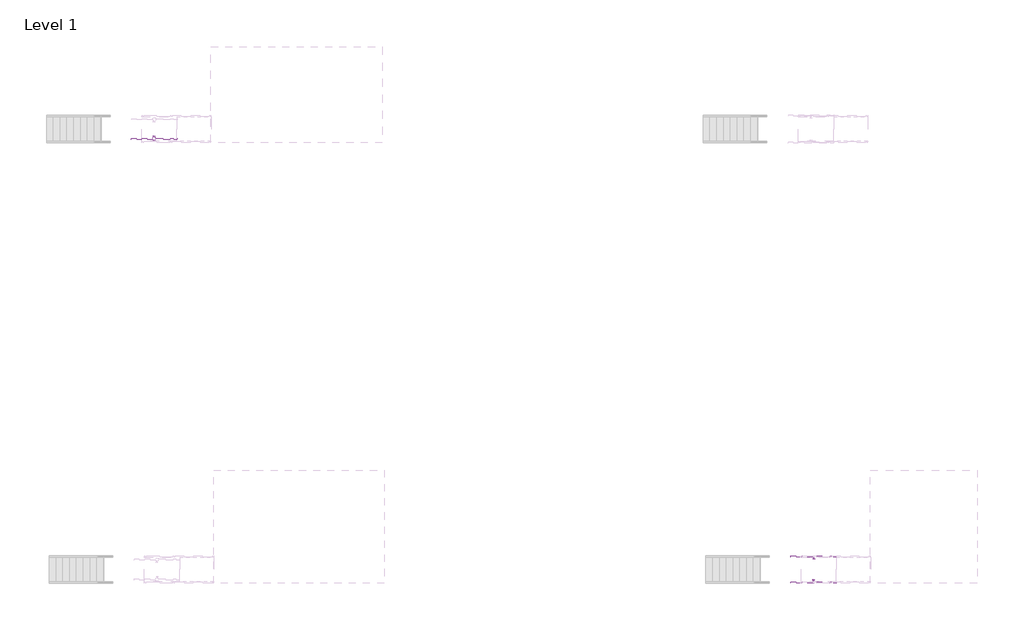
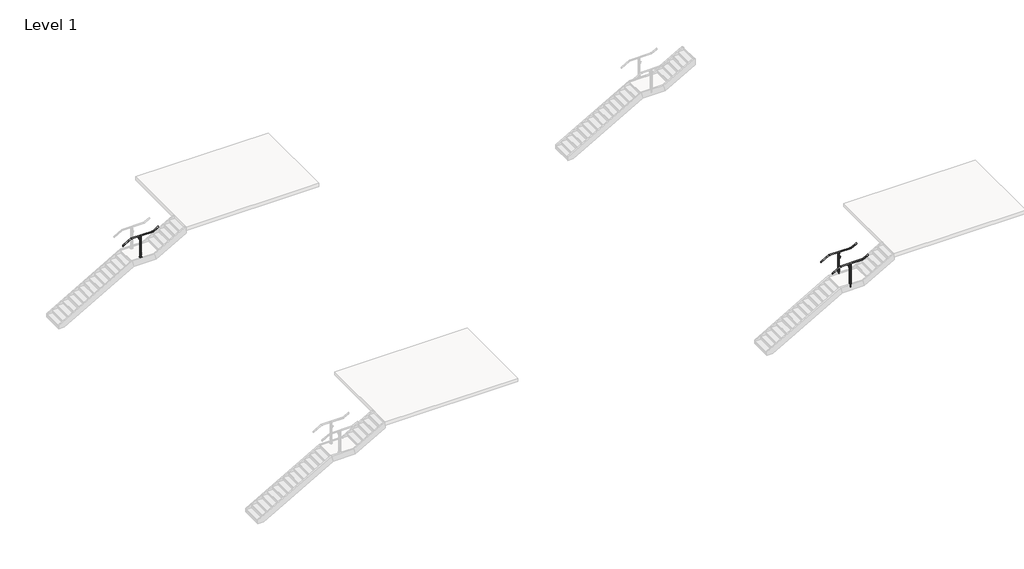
# One storey, part 30 of 36: 3 railings.
"""IFC4 building model written with IfcOpenShell, lengths in millimetres."""

from ifc_helpers import new_model, si_unit, point, frame, frame_2d, origin, place, context, project, spatial, polyline, circle_curve, ellipse_curve, trimmed, segment, composite_curve, outline, extrude, element, save
from ifc_brep_helpers import plane_surface, cylinder_surface, revolved_surface, advanced_brep

model = new_model("IFC4")

# Units and contexts
model_context = context("Model", 3, world=origin())
ifc_project = project(units=[si_unit("LENGTHUNIT", "METRE", prefix="MILLI")], contexts=[model_context])

# Site, building, storey
site = spatial("IfcSite", under=ifc_project)
building = spatial("IfcBuilding", under=site)
storey = spatial("IfcBuildingStorey", under=building, Name="Level 1", Elevation=0.0)

# Railings
placement = place(None, origin())
element("IfcRailing", 1, ObjectType="VIVA-BLADE-CableNet Infill-Panel-Core Mount-Stair-Landing", at=placement, inside=storey, context=model_context, shape_type="SolidModel", body=[
    advanced_brep(
    [(87371.2048368, 32377.4530185, 3047.7740933), (87371.2048368, 32428.2530185, 3047.7740933), (87758.9501735, 32377.4530185, 3269.3428571), (87758.9501735, 32428.2530185, 3269.3428571), (88825.7501735, 32377.4530185, 3269.3428571), (88825.7501735, 32428.2530185, 3269.3428571), (89076.1798368, 32377.4530185, 3412.4455219), (89076.1798368, 32428.2530185, 3412.4455219)],
    [
        (0, 1, ellipse_curve(frame((87371.2048368, 32402.8530185, 3047.7740933), z_axis=(-1.0, 0.0, 0.0), x_axis=(0.0, 0.0, -0.9999999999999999)), 29.2544781, 25.4)),
        (1, 0, ellipse_curve(frame((87371.2048368, 32402.8530185, 3047.7740933), z_axis=(-1.0, 0.0, 0.0), x_axis=(0.0, 0.0, -0.9999999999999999)), 29.2544781, 25.4)),
        (0, 2),
        (2, 3, ellipse_curve(frame((87758.9501735, 32402.8530185, 3269.3428571), z_axis=(-0.9664996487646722, 0.0, -0.2566679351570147), x_axis=(0.25666793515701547, 0.0, -0.9664996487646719)), 26.2804027, 25.4)),
        (3, 1),
        (3, 2, ellipse_curve(frame((87758.9501735, 32402.8530185, 3269.3428571), z_axis=(-0.9664996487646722, 0.0, -0.2566679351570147), x_axis=(0.25666793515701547, 0.0, -0.9664996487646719)), 26.2804027, 25.4)),
        (2, 4),
        (4, 5, ellipse_curve(frame((88825.7501735, 32402.8530185, 3269.3428571), z_axis=(-0.9664996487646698, 0.0, -0.2566679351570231), x_axis=(-0.2566679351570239, 0.0, 0.9664996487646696)), 26.2804027, 25.4)),
        (5, 3),
        (5, 4, ellipse_curve(frame((88825.7501735, 32402.8530185, 3269.3428571), z_axis=(-0.9664996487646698, 0.0, -0.2566679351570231), x_axis=(-0.2566679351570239, 0.0, 0.9664996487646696)), 26.2804027, 25.4)),
        (6, 7, ellipse_curve(frame((89076.1798368, 32402.8530185, 3412.4455219), z_axis=(1.0, 0.0, 0.0), x_axis=(0.0, 0.0, -1.0)), 29.2544781, 25.4)),
        (7, 6, ellipse_curve(frame((89076.1798368, 32402.8530185, 3412.4455219), z_axis=(1.0, 0.0, 0.0), x_axis=(0.0, 0.0, -1.0)), 29.2544781, 25.4)),
        (4, 6),
        (7, 5),
    ],
    [
        plane_surface(frame((87371.2048368, 32402.8530185, 3077.0285714), z_axis=(-1.0, 0.0, 0.0), x_axis=(0.0, 1.0, 0.0))),
        cylinder_surface(frame((87383.8067658, 32402.8530185, 3054.9751956), z_axis=(-0.868243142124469, 0.0, -0.49613893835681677), x_axis=(0.0, 1.0, 0.0)), 25.4),
        cylinder_surface(frame((87752.2048368, 32402.8530185, 3269.3428571), z_axis=(-1.0, 0.0, 0.0), x_axis=(0.0, 1.0, 0.0)), 25.4),
        plane_surface(frame((89076.1798368, 32402.8530185, 3441.7), z_axis=(1.0, 0.0, 0.0), x_axis=(0.0, 1.0, 0.0))),
        cylinder_surface(frame((88831.6067658, 32402.8530185, 3272.6894813), z_axis=(-0.8682431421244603, 0.0, -0.4961389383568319), x_axis=(0.0, 1.0, 0.0)), 25.4),
    ],
    [
        (0, [[1, 2]]),
        (1, [[-1, 3, 4, 5]]),
        (1, [[-2, -5, 6, -3]]),
        (2, [[-4, 7, 8, 9]]),
        (2, [[-6, -9, 10, -7]]),
        (3, [[11, 12]]),
        (4, [[-8, 13, -12, 14]]),
        (4, [[-10, -14, -11, -13]]),
    ],
),
    extrude(outline(composite_curve([segment(trimmed(circle_curve(frame_2d((0.0, 7.0)), 7.0), [point((0.0, 14.0))], [point((0.0, 0.0))], False, "CARTESIAN"), True, "CONTINUOUS"), segment(trimmed(circle_curve(frame_2d((0.0, 7.0)), 7.0), [point((0.0, 0.0))], [point((0.0, 14.0))], False, "CARTESIAN"), True, "CONTINUOUS")], self_intersect=False)), frame((88223.6080869, 32488.5366409, 3013.7229503), z_axis=(0.0012555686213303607, 0.0, 0.999999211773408), x_axis=(0.999999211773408, 0.0, -0.0012555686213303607)), (0.0, 0.0, 1.0), 75.97),
    extrude(outline(composite_curve([segment(trimmed(circle_curve(frame_2d((32496.784573, 3111.669086)), 19.05), [point((32483.2549847, 3098.2581672))], [point((32510.3141612, 3098.2581672))], True, "CARTESIAN"), True, "CONTINUOUS"), segment(polyline([(32510.3141612, 3098.2581672), (32511.3405508, 3097.2407802)]), True, "CONTINUOUS"), segment(trimmed(circle_curve(frame_2d((32510.284573, 3096.1754583)), 1.5), [point((32511.3405508, 3097.2407802))], [point((32511.2699744, 3095.0445366))], False, "CARTESIAN"), True, "CONTINUOUS"), segment(trimmed(circle_curve(frame_2d((32496.784573, 3111.669086)), 22.05), [point((32511.2699744, 3095.0445366))], [point((32482.2991715, 3095.0445366))], False, "CARTESIAN"), True, "CONTINUOUS"), segment(trimmed(circle_curve(frame_2d((32483.284573, 3096.1754583)), 1.5), [point((32482.2991715, 3095.0445366))], [point((32482.2285951, 3097.2407802))], False, "CARTESIAN"), True, "CONTINUOUS"), segment(polyline([(32482.2285951, 3097.2407802), (32483.2549847, 3098.2581672)]), True, "CONTINUOUS")], self_intersect=False)), frame((88187.2567022, 0.0, 0.0), z_axis=(1.0, 0.0, 0.0), x_axis=(0.0, 1.0, 0.0)), (0.0, 0.0, 1.0), 74.5229187),
    extrude(outline(composite_curve([segment(trimmed(circle_curve(frame_2d((3040.5995463, 88223.6679904)), 12.5), [point((3040.5995463, 88211.1679904))], [point((3040.5995463, 88236.1679904))], False, "CARTESIAN"), True, "CONTINUOUS"), segment(trimmed(circle_curve(frame_2d((3040.5995463, 88223.6679904)), 12.5), [point((3040.5995463, 88236.1679904))], [point((3040.5995463, 88211.1679904))], False, "CARTESIAN"), True, "CONTINUOUS")], self_intersect=False)), frame((0.0, 32428.2528152, 0.0), z_axis=(0.0, 1.0, 0.0), x_axis=(0.0, 0.0, 1.0)), (0.0, 0.0, 1.0), 82.061346),
    extrude(outline(polyline([(88250.7671725, 32434.6028152), (88250.7671725, 32428.2528152), (88196.6397725, 32428.2528152), (88196.6397725, 32434.6028152), (88250.7671725, 32434.6028152)])), frame((0.0, 0.0, 3013.6558249), z_axis=(0.0, 0.0, 1.0), x_axis=(1.0, 0.0, 0.0)), (0.0, 0.0, 1.0), 54.1734375),
    extrude(outline(composite_curve([segment(trimmed(circle_curve(frame_2d((88223.6803999, 32399.4170786)), 63.5), [point((88223.6803999, 32335.9170786))], [point((88223.6803999, 32462.9170786))], False, "CARTESIAN"), True, "CONTINUOUS"), segment(trimmed(circle_curve(frame_2d((88223.6803999, 32399.4170786)), 63.5), [point((88223.6803999, 32462.9170786))], [point((88223.6803999, 32335.9170786))], False, "CARTESIAN"), True, "CONTINUOUS")], self_intersect=False)), frame((0.0, 0.0, 2177.1428571), z_axis=(0.0, 0.0, 1.0), x_axis=(1.0, 0.0, 0.0)), (0.0, 0.0, 1.0), 9.525),
    advanced_brep(
    [(88268.9297368, 32415.6131421, 3247.3396226), (88268.9297368, 32390.7410776, 3247.1963856), (88268.9297368, 32387.9321473, 3242.3696317), (88268.9297368, 32419.4490396, 3242.9503901), (88178.4549368, 32415.6131421, 3247.3396226), (88178.4549368, 32419.4490396, 3242.9503901), (88178.4549368, 32387.8183539, 3242.4322535), (88178.4549368, 32390.6541055, 3247.2447018)],
    [
        (0, 1, circle_curve(frame((88268.9297368, 32403.0493392, 3269.4544469), z_axis=(-1.0, 0.0, 0.0), x_axis=(0.0, 1.0, 0.0)), 25.4345159)),
        (1, 2, circle_curve(frame((88268.9297368, 32389.4094524, 3244.742217), z_axis=(1.0, 0.0, 0.0), x_axis=(0.0, 1.0, 0.0)), 2.7949225)),
        (2, 3, circle_curve(frame((88268.9297368, 32403.1828023, 3270.2170736), z_axis=(1.0, 0.0, 0.0), x_axis=(0.0, 1.0, 0.0)), 31.75)),
        (3, 0, circle_curve(frame((88268.9297368, 32417.1606998, 3244.8213092), z_axis=(1.0, 0.0, 0.0), x_axis=(0.0, 1.0, 0.0)), 2.9558141)),
        (4, 5, circle_curve(frame((88178.4549368, 32417.1606998, 3244.8213092), z_axis=(-1.0, 0.0, 0.0), x_axis=(0.0, 1.0, 0.0)), 2.9558141)),
        (5, 6, circle_curve(frame((88178.4549368, 32403.1828023, 3270.2170736), z_axis=(-1.0, 0.0, 0.0), x_axis=(0.0, 1.0, 0.0)), 31.75)),
        (6, 7, circle_curve(frame((88178.4549368, 32389.4094524, 3244.742217), z_axis=(-1.0, 0.0, 0.0), x_axis=(0.0, 1.0, 0.0)), 2.7949225)),
        (7, 4, circle_curve(frame((88178.4549368, 32403.0493392, 3269.4544469), z_axis=(1.0, 0.0, 0.0), x_axis=(0.0, 1.0, 0.0)), 25.4345159)),
        (0, 4),
        (7, 1),
        (6, 2),
        (5, 3),
    ],
    [
        plane_surface(frame((88268.9297368, 32428.4838551, 3269.4544469), z_axis=(1.0, 0.0, 0.0), x_axis=(0.0, 0.0, -1.0))),
        plane_surface(frame((88178.4549368, 32428.4838551, 3269.4544469), z_axis=(-1.0, 0.0, 0.0), x_axis=(0.0, 0.0, 1.0))),
        revolved_surface(polyline([(88178.4549368, 32428.4838551, 3269.4544469), (88268.9297368, 32428.4838551, 3269.4544469)]), (88178.4549368, 32403.0493392, 3269.4544469), (-1.0, 0.0, 0.0)),
        cylinder_surface(frame((88178.4549368, 32389.4094524, 3244.742217), z_axis=(1.0, 0.0, 0.0), x_axis=(0.0, 1.0, 0.0)), 2.7949225),
        cylinder_surface(frame((88178.4549368, 32403.1828023, 3270.2170736), z_axis=(1.0, 0.0, 0.0), x_axis=(0.0, 1.0, 0.0)), 31.75),
        cylinder_surface(frame((88178.4549368, 32417.1606998, 3244.8213092), z_axis=(1.0, 0.0, 0.0), x_axis=(0.0, 1.0, 0.0)), 2.9558141),
    ],
    [
        (0, [[1, 2, 3, 4]]),
        (1, [[5, 6, 7, 8]]),
        (2, [[-1, 9, -8, 10]]),
        (3, [[-2, -10, -7, 11]]),
        (4, [[-3, -11, -6, 12]]),
        (5, [[-4, -12, -5, -9]]),
    ],
),
    advanced_brep(
    [(88236.3923368, 32405.3930185, 3229.6553571), (88210.9923368, 32405.3930185, 3229.6553571), (88196.6244219, 32405.3930185, 3244.023272), (88250.7602517, 32405.3930185, 3244.023272), (88236.3923368, 32400.3130185, 3229.6553571), (88250.7602517, 32400.3130185, 3244.023272), (88196.6244219, 32400.3130185, 3244.023272), (88210.9923368, 32400.3130185, 3229.6553571)],
    [
        (0, 1),
        (1, 2, circle_curve(frame((88196.6244219, 32405.3930185, 3229.6553571), z_axis=(0.0, -1.0, 0.0), x_axis=(-1.0, 0.0, 0.0)), 14.3679149)),
        (2, 3),
        (3, 0, circle_curve(frame((88250.7602517, 32405.3930185, 3229.6553571), z_axis=(0.0, -1.0, 0.0), x_axis=(-1.0, 0.0, 0.0)), 14.3679149)),
        (4, 5, circle_curve(frame((88250.7602517, 32400.3130185, 3229.6553571), z_axis=(0.0, 1.0, 0.0), x_axis=(-1.0, 0.0, 0.0)), 14.3679149)),
        (5, 6),
        (6, 7, circle_curve(frame((88196.6244219, 32400.3130185, 3229.6553571), z_axis=(0.0, 1.0, 0.0), x_axis=(-1.0, 0.0, 0.0)), 14.3679149)),
        (7, 4),
        (0, 4),
        (7, 1),
        (6, 2),
        (5, 3),
    ],
    [
        plane_surface(frame((88210.9923368, 32405.3930185, 3229.6553571), z_axis=(0.0, 1.0, 0.0), x_axis=(-1.0, 0.0, 0.0))),
        plane_surface(frame((88210.9923368, 32400.3130185, 3229.6553571), z_axis=(0.0, -1.0, 0.0), x_axis=(1.0, 0.0, 0.0))),
        plane_surface(frame((88236.3923368, 32405.3930185, 3229.6553571), z_axis=(0.0, 0.0, -1.0), x_axis=(0.0, -1.0, 0.0))),
        revolved_surface(polyline([(88182.256507, 32400.3130185, 3229.6553571), (88182.256507, 32405.3930185, 3229.6553571)]), (88196.6244219, 32400.3130185, 3229.6553571), (0.0, -1.0, 0.0)),
        plane_surface(frame((88196.6244219, 32405.3930185, 3244.023272), z_axis=(0.0, 0.0, 1.0), x_axis=(0.0, -1.0, 0.0))),
        revolved_surface(polyline([(88236.39233680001, 32400.3130185, 3229.6553571), (88236.39233680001, 32405.3930185, 3229.6553571)]), (88250.7602517, 32400.3130185, 3229.6553571), (0.0, -1.0, 0.0)),
    ],
    [
        (0, [[1, 2, 3, 4]]),
        (1, [[5, 6, 7, 8]]),
        (2, [[-1, 9, -8, 10]]),
        (3, [[-2, -10, -7, 11]]),
        (4, [[-3, -11, -6, 12]]),
        (5, [[-4, -12, -5, -9]]),
    ],
),
    extrude(outline(polyline([(88196.6175011, 32428.2528152), (88204.6423368, 32428.2528152), (88204.6423368, 32377.4504906), (88196.6175011, 32377.4504906), (88196.6175011, 32428.2528152)])), frame((0.0, 0.0, 2237.6440557), z_axis=(0.0, 0.0, 1.0), x_axis=(1.0, 0.0, 0.0)), (0.0, 0.0, 1.0), 974.5488015),
    extrude(outline(polyline([(88231.621338, 32428.2524163), (88231.621338, 32377.452424), (88215.6853476, 32377.452424), (88215.6853476, 32428.2524163), (88231.621338, 32428.2524163)])), frame((0.0, 0.0, 2075.5428571), z_axis=(0.0, 0.0, 1.0), x_axis=(1.0, 0.0, 0.0)), (0.0, 0.0, 1.0), 342.9),
    extrude(outline(composite_curve([segment(trimmed(circle_curve(frame_2d((32390.1505416, 3201.2845501)), 8.89), [point((32381.2605416, 3201.2845501))], [point((32399.0405416, 3201.2845501))], False, "CARTESIAN"), True, "CONTINUOUS"), segment(trimmed(circle_curve(frame_2d((32390.1505416, 3201.2845501)), 8.89), [point((32399.0405416, 3201.2845501))], [point((32381.2605416, 3201.2845501))], False, "CARTESIAN"), True, "CONTINUOUS")], self_intersect=False)), frame((88191.9423368, 0.0, 0.0), z_axis=(1.0, 0.0, 0.0), x_axis=(0.0, 1.0, 0.0)), (0.0, 0.0, 1.0), 63.4880631),
    extrude(outline(composite_curve([segment(trimmed(circle_curve(frame_2d((32415.5504395, 3201.2845501)), 8.89), [point((32406.6604395, 3201.2845501))], [point((32424.4404395, 3201.2845501))], False, "CARTESIAN"), True, "CONTINUOUS"), segment(trimmed(circle_curve(frame_2d((32415.5504395, 3201.2845501)), 8.89), [point((32424.4404395, 3201.2845501))], [point((32406.6604395, 3201.2845501))], False, "CARTESIAN"), True, "CONTINUOUS")], self_intersect=False)), frame((88191.9423368, 0.0, 0.0), z_axis=(1.0, 0.0, 0.0), x_axis=(0.0, 1.0, 0.0)), (0.0, 0.0, 1.0), 63.4880631),
    extrude(outline(polyline([(3189.9551571, 88204.6423368), (3189.9551571, 88242.7423368), (3223.3053571, 88242.7423368), (3229.6553571, 88236.3923368), (3229.6553571, 88210.9923368), (3223.3053571, 88204.6423368), (3189.9551571, 88204.6423368)])), frame((0.0, 32377.4504906, 0.0), z_axis=(0.0, 1.0, 0.0), x_axis=(0.0, 0.0, 1.0)), (0.0, 0.0, 1.0), 50.8025279),
    extrude(outline(composite_curve([segment(trimmed(circle_curve(frame_2d((32402.8532242, 2385.1476493)), 19.05), [point((32383.8032242, 2385.1476493))], [point((32421.9032242, 2385.1476493))], False, "CARTESIAN"), True, "CONTINUOUS"), segment(trimmed(circle_curve(frame_2d((32402.8532242, 2385.1476493)), 19.05), [point((32421.9032242, 2385.1476493))], [point((32383.8032242, 2385.1476493))], False, "CARTESIAN"), True, "CONTINUOUS")], self_intersect=False)), frame((88187.2433368, 0.0, 0.0), z_axis=(1.0, 0.0, 0.0), x_axis=(0.0, 1.0, 0.0)), (0.0, 0.0, 1.0), 72.8981531),
    extrude(outline(composite_curve([segment(trimmed(circle_curve(frame_2d((32402.8532242, 2296.2476493)), 19.05), [point((32383.8032242, 2296.2476493))], [point((32421.9032242, 2296.2476493))], False, "CARTESIAN"), True, "CONTINUOUS"), segment(trimmed(circle_curve(frame_2d((32402.8532242, 2296.2476493)), 19.05), [point((32421.9032242, 2296.2476493))], [point((32383.8032242, 2296.2476493))], False, "CARTESIAN"), True, "CONTINUOUS")], self_intersect=False)), frame((88187.2433368, 0.0, 0.0), z_axis=(1.0, 0.0, 0.0), x_axis=(0.0, 1.0, 0.0)), (0.0, 0.0, 1.0), 72.8981531),
    extrude(outline(polyline([(88242.7422988, 32428.2528152), (88250.7432988, 32428.2528152), (88250.7432988, 32377.4504906), (88242.7422988, 32377.4504906), (88242.7422988, 32428.2528152)])), frame((0.0, 0.0, 2237.6440557), z_axis=(0.0, 0.0, 1.0), x_axis=(1.0, 0.0, 0.0)), (0.0, 0.0, 1.0), 974.5488015),
])
element("IfcRailing", 2, ObjectType="VIVA-BLADE-Glass-Weld Mount-Stair-Landing", at=placement, inside=storey, context=model_context, shape_type="SolidModel", body=[
    advanced_brep(
    [(112025.2736551, 15795.2395941, 3047.7740933), (112025.2736551, 15846.0395941, 3047.7740933), (112413.0189918, 15795.2395941, 3269.3428571), (112413.0189918, 15846.0395941, 3269.3428571), (113479.8189918, 15795.2395941, 3269.3428571), (113479.8189918, 15846.0395941, 3269.3428571), (113730.2486551, 15795.2395941, 3412.4455219), (113730.2486551, 15846.0395941, 3412.4455219)],
    [
        (0, 1, ellipse_curve(frame((112025.2736551, 15820.6395941, 3047.7740933), z_axis=(-1.0, 0.0, 0.0), x_axis=(0.0, 0.0, -0.9999999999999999)), 29.2544781, 25.4)),
        (1, 0, ellipse_curve(frame((112025.2736551, 15820.6395941, 3047.7740933), z_axis=(-1.0, 0.0, 0.0), x_axis=(0.0, 0.0, -0.9999999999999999)), 29.2544781, 25.4)),
        (0, 2),
        (2, 3, ellipse_curve(frame((112413.0189918, 15820.6395941, 3269.3428571), z_axis=(-0.9664996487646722, 0.0, -0.2566679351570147), x_axis=(0.25666793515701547, 0.0, -0.9664996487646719)), 26.2804027, 25.4)),
        (3, 1),
        (3, 2, ellipse_curve(frame((112413.0189918, 15820.6395941, 3269.3428571), z_axis=(-0.9664996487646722, 0.0, -0.2566679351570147), x_axis=(0.25666793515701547, 0.0, -0.9664996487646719)), 26.2804027, 25.4)),
        (2, 4),
        (4, 5, ellipse_curve(frame((113479.8189918, 15820.6395941, 3269.3428571), z_axis=(-0.9664996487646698, 0.0, -0.2566679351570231), x_axis=(-0.2566679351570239, 0.0, 0.9664996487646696)), 26.2804027, 25.4)),
        (5, 3),
        (5, 4, ellipse_curve(frame((113479.8189918, 15820.6395941, 3269.3428571), z_axis=(-0.9664996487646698, 0.0, -0.2566679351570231), x_axis=(-0.2566679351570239, 0.0, 0.9664996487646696)), 26.2804027, 25.4)),
        (6, 7, ellipse_curve(frame((113730.2486551, 15820.6395941, 3412.4455219), z_axis=(1.0, 0.0, 0.0), x_axis=(0.0, 0.0, -1.0)), 29.2544781, 25.4)),
        (7, 6, ellipse_curve(frame((113730.2486551, 15820.6395941, 3412.4455219), z_axis=(1.0, 0.0, 0.0), x_axis=(0.0, 0.0, -1.0)), 29.2544781, 25.4)),
        (4, 6),
        (7, 5),
    ],
    [
        plane_surface(frame((112025.2736551, 15820.6395941, 3077.0285714), z_axis=(-1.0, 0.0, 0.0), x_axis=(0.0, 1.0, 0.0))),
        cylinder_surface(frame((112037.8755841, 15820.6395941, 3054.9751956), z_axis=(-0.868243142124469, 0.0, -0.49613893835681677), x_axis=(0.0, 1.0, 0.0)), 25.4),
        cylinder_surface(frame((112406.2736551, 15820.6395941, 3269.3428571), z_axis=(-1.0, 0.0, 0.0), x_axis=(0.0, 1.0, 0.0)), 25.4),
        plane_surface(frame((113730.2486551, 15820.6395941, 3441.7), z_axis=(1.0, 0.0, 0.0), x_axis=(0.0, 1.0, 0.0))),
        cylinder_surface(frame((113485.6755841, 15820.6395941, 3272.6894813), z_axis=(-0.8682431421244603, 0.0, -0.4961389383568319), x_axis=(0.0, 1.0, 0.0)), 25.4),
    ],
    [
        (0, [[1, 2]]),
        (1, [[-1, 3, 4, 5]]),
        (1, [[-2, -5, 6, -3]]),
        (2, [[-4, 7, 8, 9]]),
        (2, [[-6, -9, 10, -7]]),
        (3, [[11, 12]]),
        (4, [[-8, 13, -12, 14]]),
        (4, [[-10, -14, -11, -13]]),
    ],
),
    extrude(outline(composite_curve([segment(trimmed(circle_curve(frame_2d((0.0, 7.0)), 7.0), [point((0.0, 14.0))], [point((0.0, 0.0))], False, "CARTESIAN"), True, "CONTINUOUS"), segment(trimmed(circle_curve(frame_2d((0.0, 7.0)), 7.0), [point((0.0, 0.0))], [point((0.0, 14.0))], False, "CARTESIAN"), True, "CONTINUOUS")], self_intersect=False)), frame((112877.6769052, 15906.3232165, 3013.7229503), z_axis=(0.0012555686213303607, 0.0, 0.999999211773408), x_axis=(0.999999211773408, 0.0, -0.0012555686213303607)), (0.0, 0.0, 1.0), 75.97),
    extrude(outline(composite_curve([segment(trimmed(circle_curve(frame_2d((15914.5711486, 3111.669086)), 19.05), [point((15901.0415603, 3098.2581672))], [point((15928.1007368, 3098.2581672))], True, "CARTESIAN"), True, "CONTINUOUS"), segment(polyline([(15928.1007368, 3098.2581672), (15929.1271264, 3097.2407802)]), True, "CONTINUOUS"), segment(trimmed(circle_curve(frame_2d((15928.0711486, 3096.1754583)), 1.5), [point((15929.1271264, 3097.2407802))], [point((15929.05655, 3095.0445366))], False, "CARTESIAN"), True, "CONTINUOUS"), segment(trimmed(circle_curve(frame_2d((15914.5711486, 3111.669086)), 22.05), [point((15929.05655, 3095.0445366))], [point((15900.0857471, 3095.0445366))], False, "CARTESIAN"), True, "CONTINUOUS"), segment(trimmed(circle_curve(frame_2d((15901.0711486, 3096.1754583)), 1.5), [point((15900.0857471, 3095.0445366))], [point((15900.0151707, 3097.2407802))], False, "CARTESIAN"), True, "CONTINUOUS"), segment(polyline([(15900.0151707, 3097.2407802), (15901.0415603, 3098.2581672)]), True, "CONTINUOUS")], self_intersect=False)), frame((112841.3255204, 0.0, 0.0), z_axis=(1.0, 0.0, 0.0), x_axis=(0.0, 1.0, 0.0)), (0.0, 0.0, 1.0), 74.5229187),
    extrude(outline(composite_curve([segment(trimmed(circle_curve(frame_2d((3040.5995463, 112877.7368087)), 12.5), [point((3040.5995463, 112865.2368087))], [point((3040.5995463, 112890.2368087))], False, "CARTESIAN"), True, "CONTINUOUS"), segment(trimmed(circle_curve(frame_2d((3040.5995463, 112877.7368087)), 12.5), [point((3040.5995463, 112890.2368087))], [point((3040.5995463, 112865.2368087))], False, "CARTESIAN"), True, "CONTINUOUS")], self_intersect=False)), frame((0.0, 15846.0393908, 0.0), z_axis=(0.0, 1.0, 0.0), x_axis=(0.0, 0.0, 1.0)), (0.0, 0.0, 1.0), 82.061346),
    extrude(outline(polyline([(112904.8359907, 15852.3893908), (112904.8359907, 15846.0393908), (112850.7085907, 15846.0393908), (112850.7085907, 15852.3893908), (112904.8359907, 15852.3893908)])), frame((0.0, 0.0, 3013.6558249), z_axis=(0.0, 0.0, 1.0), x_axis=(1.0, 0.0, 0.0)), (0.0, 0.0, 1.0), 54.1734375),
    advanced_brep(
    [(112922.9985551, 15833.3997177, 3247.3396226), (112922.9985551, 15808.5276532, 3247.1963856), (112922.9985551, 15805.7187229, 3242.3696317), (112922.9985551, 15837.2356152, 3242.9503901), (112832.5237551, 15833.3997177, 3247.3396226), (112832.5237551, 15837.2356152, 3242.9503901), (112832.5237551, 15805.6049295, 3242.4322535), (112832.5237551, 15808.4406811, 3247.2447018)],
    [
        (0, 1, circle_curve(frame((112922.9985551, 15820.8359148, 3269.4544469), z_axis=(-1.0, 0.0, 0.0), x_axis=(0.0, 1.0, 0.0)), 25.4345159)),
        (1, 2, circle_curve(frame((112922.9985551, 15807.196028, 3244.742217), z_axis=(1.0, 0.0, 0.0), x_axis=(0.0, 1.0, 0.0)), 2.7949225)),
        (2, 3, circle_curve(frame((112922.9985551, 15820.9693779, 3270.2170736), z_axis=(1.0, 0.0, 0.0), x_axis=(0.0, 1.0, 0.0)), 31.75)),
        (3, 0, circle_curve(frame((112922.9985551, 15834.9472754, 3244.8213092), z_axis=(1.0, 0.0, 0.0), x_axis=(0.0, 1.0, 0.0)), 2.9558141)),
        (4, 5, circle_curve(frame((112832.5237551, 15834.9472754, 3244.8213092), z_axis=(-1.0, 0.0, 0.0), x_axis=(0.0, 1.0, 0.0)), 2.9558141)),
        (5, 6, circle_curve(frame((112832.5237551, 15820.9693779, 3270.2170736), z_axis=(-1.0, 0.0, 0.0), x_axis=(0.0, 1.0, 0.0)), 31.75)),
        (6, 7, circle_curve(frame((112832.5237551, 15807.196028, 3244.742217), z_axis=(-1.0, 0.0, 0.0), x_axis=(0.0, 1.0, 0.0)), 2.7949225)),
        (7, 4, circle_curve(frame((112832.5237551, 15820.8359148, 3269.4544469), z_axis=(1.0, 0.0, 0.0), x_axis=(0.0, 1.0, 0.0)), 25.4345159)),
        (0, 4),
        (7, 1),
        (6, 2),
        (5, 3),
    ],
    [
        plane_surface(frame((112922.9985551, 15846.2704307, 3269.4544469), z_axis=(1.0, 0.0, 0.0), x_axis=(0.0, 0.0, -1.0))),
        plane_surface(frame((112832.5237551, 15846.2704307, 3269.4544469), z_axis=(-1.0, 0.0, 0.0), x_axis=(0.0, 0.0, 1.0))),
        revolved_surface(polyline([(112832.5237551, 15846.2704307, 3269.4544469), (112922.9985551, 15846.2704307, 3269.4544469)]), (112832.5237551, 15820.8359148, 3269.4544469), (-1.0, 0.0, 0.0)),
        cylinder_surface(frame((112832.5237551, 15807.196028, 3244.742217), z_axis=(1.0, 0.0, 0.0), x_axis=(0.0, 1.0, 0.0)), 2.7949225),
        cylinder_surface(frame((112832.5237551, 15820.9693779, 3270.2170736), z_axis=(1.0, 0.0, 0.0), x_axis=(0.0, 1.0, 0.0)), 31.75),
        cylinder_surface(frame((112832.5237551, 15834.9472754, 3244.8213092), z_axis=(1.0, 0.0, 0.0), x_axis=(0.0, 1.0, 0.0)), 2.9558141),
    ],
    [
        (0, [[1, 2, 3, 4]]),
        (1, [[5, 6, 7, 8]]),
        (2, [[-1, 9, -8, 10]]),
        (3, [[-2, -10, -7, 11]]),
        (4, [[-3, -11, -6, 12]]),
        (5, [[-4, -12, -5, -9]]),
    ],
),
    advanced_brep(
    [(112890.4611551, 15823.1795941, 3229.6553571), (112865.0611551, 15823.1795941, 3229.6553571), (112850.6932402, 15823.1795941, 3244.023272), (112904.8290699, 15823.1795941, 3244.023272), (112890.4611551, 15818.0995941, 3229.6553571), (112904.8290699, 15818.0995941, 3244.023272), (112850.6932402, 15818.0995941, 3244.023272), (112865.0611551, 15818.0995941, 3229.6553571)],
    [
        (0, 1),
        (1, 2, circle_curve(frame((112850.6932402, 15823.1795941, 3229.6553571), z_axis=(0.0, -1.0, 0.0), x_axis=(-1.0, 0.0, 0.0)), 14.3679149)),
        (2, 3),
        (3, 0, circle_curve(frame((112904.8290699, 15823.1795941, 3229.6553571), z_axis=(0.0, -1.0, 0.0), x_axis=(-1.0, 0.0, 0.0)), 14.3679149)),
        (4, 5, circle_curve(frame((112904.8290699, 15818.0995941, 3229.6553571), z_axis=(0.0, 1.0, 0.0), x_axis=(-1.0, 0.0, 0.0)), 14.3679149)),
        (5, 6),
        (6, 7, circle_curve(frame((112850.6932402, 15818.0995941, 3229.6553571), z_axis=(0.0, 1.0, 0.0), x_axis=(-1.0, 0.0, 0.0)), 14.3679149)),
        (7, 4),
        (0, 4),
        (7, 1),
        (6, 2),
        (5, 3),
    ],
    [
        plane_surface(frame((112865.0611551, 15823.1795941, 3229.6553571), z_axis=(0.0, 1.0, 0.0), x_axis=(-1.0, 0.0, 0.0))),
        plane_surface(frame((112865.0611551, 15818.0995941, 3229.6553571), z_axis=(0.0, -1.0, 0.0), x_axis=(1.0, 0.0, 0.0))),
        plane_surface(frame((112890.4611551, 15823.1795941, 3229.6553571), z_axis=(0.0, 0.0, -1.0), x_axis=(0.0, -1.0, 0.0))),
        revolved_surface(polyline([(112836.3253253, 15818.0995941, 3229.6553571), (112836.3253253, 15823.1795941, 3229.6553571)]), (112850.6932402, 15818.0995941, 3229.6553571), (0.0, -1.0, 0.0)),
        plane_surface(frame((112850.6932402, 15823.1795941, 3244.023272), z_axis=(0.0, 0.0, 1.0), x_axis=(0.0, -1.0, 0.0))),
        revolved_surface(polyline([(112890.46115500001, 15818.0995941, 3229.6553571), (112890.46115500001, 15823.1795941, 3229.6553571)]), (112904.8290699, 15818.0995941, 3229.6553571), (0.0, -1.0, 0.0)),
    ],
    [
        (0, [[1, 2, 3, 4]]),
        (1, [[5, 6, 7, 8]]),
        (2, [[-1, 9, -8, 10]]),
        (3, [[-2, -10, -7, 11]]),
        (4, [[-3, -11, -6, 12]]),
        (5, [[-4, -12, -5, -9]]),
    ],
),
    extrude(outline(polyline([(112850.6863194, 15846.0393908), (112858.7111551, 15846.0393908), (112858.7111551, 15795.2370662), (112850.6863194, 15795.2370662), (112850.6863194, 15846.0393908)])), frame((0.0, 0.0, 2237.6440557), z_axis=(0.0, 0.0, 1.0), x_axis=(1.0, 0.0, 0.0)), (0.0, 0.0, 1.0), 974.5488015),
    extrude(outline(polyline([(112885.6901563, 15846.0389919), (112885.6901563, 15795.2389996), (112869.7541659, 15795.2389996), (112869.7541659, 15846.0389919), (112885.6901563, 15846.0389919)])), frame((0.0, 0.0, 2075.5428571), z_axis=(0.0, 0.0, 1.0), x_axis=(1.0, 0.0, 0.0)), (0.0, 0.0, 1.0), 342.9),
    extrude(outline(composite_curve([segment(trimmed(circle_curve(frame_2d((15807.9371172, 3201.2845501)), 8.89), [point((15799.0471172, 3201.2845501))], [point((15816.8271172, 3201.2845501))], False, "CARTESIAN"), True, "CONTINUOUS"), segment(trimmed(circle_curve(frame_2d((15807.9371172, 3201.2845501)), 8.89), [point((15816.8271172, 3201.2845501))], [point((15799.0471172, 3201.2845501))], False, "CARTESIAN"), True, "CONTINUOUS")], self_intersect=False)), frame((112846.0111551, 0.0, 0.0), z_axis=(1.0, 0.0, 0.0), x_axis=(0.0, 1.0, 0.0)), (0.0, 0.0, 1.0), 63.4880631),
    extrude(outline(composite_curve([segment(trimmed(circle_curve(frame_2d((15833.3370151, 3201.2845501)), 8.89), [point((15824.4470151, 3201.2845501))], [point((15842.2270151, 3201.2845501))], False, "CARTESIAN"), True, "CONTINUOUS"), segment(trimmed(circle_curve(frame_2d((15833.3370151, 3201.2845501)), 8.89), [point((15842.2270151, 3201.2845501))], [point((15824.4470151, 3201.2845501))], False, "CARTESIAN"), True, "CONTINUOUS")], self_intersect=False)), frame((112846.0111551, 0.0, 0.0), z_axis=(1.0, 0.0, 0.0), x_axis=(0.0, 1.0, 0.0)), (0.0, 0.0, 1.0), 63.4880631),
    extrude(outline(polyline([(3189.9551571, 112858.7111551), (3189.9551571, 112896.8111551), (3223.3053571, 112896.8111551), (3229.6553571, 112890.4611551), (3229.6553571, 112865.0611551), (3223.3053571, 112858.7111551), (3189.9551571, 112858.7111551)])), frame((0.0, 15795.2370662, 0.0), z_axis=(0.0, 1.0, 0.0), x_axis=(0.0, 0.0, 1.0)), (0.0, 0.0, 1.0), 50.8025279),
    extrude(outline(composite_curve([segment(trimmed(circle_curve(frame_2d((15820.6397998, 2385.1476493)), 19.05), [point((15801.5897998, 2385.1476493))], [point((15839.6897998, 2385.1476493))], False, "CARTESIAN"), True, "CONTINUOUS"), segment(trimmed(circle_curve(frame_2d((15820.6397998, 2385.1476493)), 19.05), [point((15839.6897998, 2385.1476493))], [point((15801.5897998, 2385.1476493))], False, "CARTESIAN"), True, "CONTINUOUS")], self_intersect=False)), frame((112841.3121551, 0.0, 0.0), z_axis=(1.0, 0.0, 0.0), x_axis=(0.0, 1.0, 0.0)), (0.0, 0.0, 1.0), 72.8981531),
    extrude(outline(composite_curve([segment(trimmed(circle_curve(frame_2d((15820.6397998, 2296.2476493)), 19.05), [point((15801.5897998, 2296.2476493))], [point((15839.6897998, 2296.2476493))], False, "CARTESIAN"), True, "CONTINUOUS"), segment(trimmed(circle_curve(frame_2d((15820.6397998, 2296.2476493)), 19.05), [point((15839.6897998, 2296.2476493))], [point((15801.5897998, 2296.2476493))], False, "CARTESIAN"), True, "CONTINUOUS")], self_intersect=False)), frame((112841.3121551, 0.0, 0.0), z_axis=(1.0, 0.0, 0.0), x_axis=(0.0, 1.0, 0.0)), (0.0, 0.0, 1.0), 72.8981531),
    extrude(outline(polyline([(112896.811117, 15846.0393908), (112904.812117, 15846.0393908), (112904.812117, 15795.2370662), (112896.811117, 15795.2370662), (112896.811117, 15846.0393908)])), frame((0.0, 0.0, 2237.6440557), z_axis=(0.0, 0.0, 1.0), x_axis=(1.0, 0.0, 0.0)), (0.0, 0.0, 1.0), 974.5488015),
])
element("IfcRailing", 3, ObjectType="VIVA-BLADE-Glass-Weld Mount-Stair-Landing", at=placement, inside=storey, context=model_context, shape_type="SolidModel", body=[
    advanced_brep(
    [(112025.2736551, 16760.4395941, 3047.7740933), (112025.2736551, 16811.2395941, 3047.7740933), (112413.0189918, 16760.4395941, 3269.3428571), (112413.0189918, 16811.2395941, 3269.3428571), (113479.8189918, 16760.4395941, 3269.3428571), (113479.8189918, 16811.2395941, 3269.3428571), (113730.2486551, 16760.4395941, 3412.4455219), (113730.2486551, 16811.2395941, 3412.4455219)],
    [
        (0, 1, ellipse_curve(frame((112025.2736551, 16785.8395941, 3047.7740933), z_axis=(-1.0, 0.0, 0.0), x_axis=(0.0, 0.0, -0.9999999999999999)), 29.2544781, 25.4)),
        (1, 0, ellipse_curve(frame((112025.2736551, 16785.8395941, 3047.7740933), z_axis=(-1.0, 0.0, 0.0), x_axis=(0.0, 0.0, -0.9999999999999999)), 29.2544781, 25.4)),
        (0, 2),
        (2, 3, ellipse_curve(frame((112413.0189918, 16785.8395941, 3269.3428571), z_axis=(-0.9664996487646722, 0.0, -0.2566679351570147), x_axis=(0.25666793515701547, 0.0, -0.9664996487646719)), 26.2804027, 25.4)),
        (3, 1),
        (3, 2, ellipse_curve(frame((112413.0189918, 16785.8395941, 3269.3428571), z_axis=(-0.9664996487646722, 0.0, -0.2566679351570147), x_axis=(0.25666793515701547, 0.0, -0.9664996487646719)), 26.2804027, 25.4)),
        (2, 4),
        (4, 5, ellipse_curve(frame((113479.8189918, 16785.8395941, 3269.3428571), z_axis=(-0.9664996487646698, 0.0, -0.2566679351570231), x_axis=(-0.2566679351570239, 0.0, 0.9664996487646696)), 26.2804027, 25.4)),
        (5, 3),
        (5, 4, ellipse_curve(frame((113479.8189918, 16785.8395941, 3269.3428571), z_axis=(-0.9664996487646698, 0.0, -0.2566679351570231), x_axis=(-0.2566679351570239, 0.0, 0.9664996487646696)), 26.2804027, 25.4)),
        (6, 7, ellipse_curve(frame((113730.2486551, 16785.8395941, 3412.4455219), z_axis=(1.0, 0.0, 0.0), x_axis=(0.0, 0.0, -1.0)), 29.2544781, 25.4)),
        (7, 6, ellipse_curve(frame((113730.2486551, 16785.8395941, 3412.4455219), z_axis=(1.0, 0.0, 0.0), x_axis=(0.0, 0.0, -1.0)), 29.2544781, 25.4)),
        (4, 6),
        (7, 5),
    ],
    [
        plane_surface(frame((112025.2736551, 16785.8395941, 3077.0285714), z_axis=(-1.0, 0.0, 0.0), x_axis=(0.0, 1.0, 0.0))),
        cylinder_surface(frame((112037.8755841, 16785.8395941, 3054.9751956), z_axis=(-0.868243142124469, 0.0, -0.49613893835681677), x_axis=(0.0, 1.0, 0.0)), 25.4),
        cylinder_surface(frame((112406.2736551, 16785.8395941, 3269.3428571), z_axis=(-1.0, 0.0, 0.0), x_axis=(0.0, 1.0, 0.0)), 25.4),
        plane_surface(frame((113730.2486551, 16785.8395941, 3441.7), z_axis=(1.0, 0.0, 0.0), x_axis=(0.0, 1.0, 0.0))),
        cylinder_surface(frame((113485.6755841, 16785.8395941, 3272.6894813), z_axis=(-0.8682431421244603, 0.0, -0.4961389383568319), x_axis=(0.0, 1.0, 0.0)), 25.4),
    ],
    [
        (0, [[1, 2]]),
        (1, [[-1, 3, 4, 5]]),
        (1, [[-2, -5, 6, -3]]),
        (2, [[-4, 7, 8, 9]]),
        (2, [[-6, -9, 10, -7]]),
        (3, [[11, 12]]),
        (4, [[-8, 13, -12, 14]]),
        (4, [[-10, -14, -11, -13]]),
    ],
),
    extrude(outline(composite_curve([segment(trimmed(circle_curve(frame_2d((0.0, -7.0)), 7.0), [point((0.0, -14.0))], [point((0.0, 0.0))], False, "CARTESIAN"), True, "CONTINUOUS"), segment(trimmed(circle_curve(frame_2d((0.0, -7.0)), 7.0), [point((0.0, 0.0))], [point((0.0, -14.0))], False, "CARTESIAN"), True, "CONTINUOUS")], self_intersect=False)), frame((112877.6769052, 16700.1559717, 3013.7229503), z_axis=(0.0012555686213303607, 0.0, 0.999999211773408), x_axis=(0.999999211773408, 0.0, -0.0012555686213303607)), (0.0, 0.0, 1.0), 75.97),
    extrude(outline(composite_curve([segment(polyline([(16705.4376279, 3098.2581672), (16706.4640175, 3097.2407802)]), True, "CONTINUOUS"), segment(trimmed(circle_curve(frame_2d((16705.4080396, 3096.1754583)), 1.5), [point((16706.4640175, 3097.2407802))], [point((16706.3934411, 3095.0445366))], False, "CARTESIAN"), True, "CONTINUOUS"), segment(trimmed(circle_curve(frame_2d((16691.9080396, 3111.669086)), 22.05), [point((16706.3934411, 3095.0445366))], [point((16677.4226382, 3095.0445366))], False, "CARTESIAN"), True, "CONTINUOUS"), segment(trimmed(circle_curve(frame_2d((16678.4080396, 3096.1754583)), 1.5), [point((16677.4226382, 3095.0445366))], [point((16677.3520618, 3097.2407802))], False, "CARTESIAN"), True, "CONTINUOUS"), segment(polyline([(16677.3520618, 3097.2407802), (16678.3784514, 3098.2581672)]), True, "CONTINUOUS"), segment(trimmed(circle_curve(frame_2d((16691.9080396, 3111.669086)), 19.05), [point((16678.3784514, 3098.2581672))], [point((16705.4376279, 3098.2581672))], True, "CARTESIAN"), True, "CONTINUOUS")], self_intersect=False)), frame((112841.3255204, 0.0, 0.0), z_axis=(1.0, 0.0, 0.0), x_axis=(0.0, 1.0, 0.0)), (0.0, 0.0, 1.0), 74.5229187),
    extrude(outline(composite_curve([segment(trimmed(circle_curve(frame_2d((3040.5995463, 112877.7368087)), 12.5), [point((3040.5995463, 112865.2368087))], [point((3040.5995463, 112890.2368087))], False, "CARTESIAN"), True, "CONTINUOUS"), segment(trimmed(circle_curve(frame_2d((3040.5995463, 112877.7368087)), 12.5), [point((3040.5995463, 112890.2368087))], [point((3040.5995463, 112865.2368087))], False, "CARTESIAN"), True, "CONTINUOUS")], self_intersect=False)), frame((0.0, 16678.3784514, 0.0), z_axis=(0.0, 1.0, 0.0), x_axis=(0.0, 0.0, 1.0)), (0.0, 0.0, 1.0), 82.061346),
    extrude(outline(polyline([(112904.8359907, 16754.0897974), (112850.7085907, 16754.0897974), (112850.7085907, 16760.4397974), (112904.8359907, 16760.4397974), (112904.8359907, 16754.0897974)])), frame((0.0, 0.0, 3013.6558249), z_axis=(0.0, 0.0, 1.0), x_axis=(1.0, 0.0, 0.0)), (0.0, 0.0, 1.0), 54.1734375),
    advanced_brep(
    [(112922.9985551, 16773.0794705, 3247.3396226), (112922.9985551, 16769.2435731, 3242.9503901), (112922.9985551, 16800.7604653, 3242.3696317), (112922.9985551, 16797.951535, 3247.1963856), (112832.5237551, 16773.0794705, 3247.3396226), (112832.5237551, 16798.0385071, 3247.2447018), (112832.5237551, 16800.8742587, 3242.4322535), (112832.5237551, 16769.2435731, 3242.9503901)],
    [
        (0, 1, circle_curve(frame((112922.9985551, 16771.5319128, 3244.8213092), z_axis=(1.0, 0.0, 0.0), x_axis=(0.0, -1.0, 0.0)), 2.9558141)),
        (1, 2, circle_curve(frame((112922.9985551, 16785.5098103, 3270.2170736), z_axis=(1.0, 0.0, 0.0), x_axis=(0.0, -1.0, 0.0)), 31.75)),
        (2, 3, circle_curve(frame((112922.9985551, 16799.2831602, 3244.742217), z_axis=(1.0, 0.0, 0.0), x_axis=(0.0, -1.0, 0.0)), 2.7949225)),
        (3, 0, circle_curve(frame((112922.9985551, 16785.6432734, 3269.4544469), z_axis=(-1.0, 0.0, 0.0), x_axis=(0.0, -1.0, 0.0)), 25.4345159)),
        (4, 5, circle_curve(frame((112832.5237551, 16785.6432734, 3269.4544469), z_axis=(1.0, 0.0, 0.0), x_axis=(0.0, -1.0, 0.0)), 25.4345159)),
        (5, 6, circle_curve(frame((112832.5237551, 16799.2831602, 3244.742217), z_axis=(-1.0, 0.0, 0.0), x_axis=(0.0, -1.0, 0.0)), 2.7949225)),
        (6, 7, circle_curve(frame((112832.5237551, 16785.5098103, 3270.2170736), z_axis=(-1.0, 0.0, 0.0), x_axis=(0.0, -1.0, 0.0)), 31.75)),
        (7, 4, circle_curve(frame((112832.5237551, 16771.5319128, 3244.8213092), z_axis=(-1.0, 0.0, 0.0), x_axis=(0.0, -1.0, 0.0)), 2.9558141)),
        (3, 5),
        (4, 0),
        (2, 6),
        (1, 7),
    ],
    [
        plane_surface(frame((112922.9985551, 16760.2087575, 3269.4544469), z_axis=(1.0, 0.0, 0.0), x_axis=(0.0, 0.0, -1.0))),
        plane_surface(frame((112832.5237551, 16760.2087575, 3269.4544469), z_axis=(-1.0, 0.0, 0.0), x_axis=(0.0, 0.0, 1.0))),
        revolved_surface(polyline([(112832.5237551, 16760.2087575, 3269.4544469), (112922.9985551, 16760.2087575, 3269.4544469)]), (112832.5237551, 16785.6432734, 3269.4544469), (-1.0, 0.0, 0.0)),
        cylinder_surface(frame((112832.5237551, 16799.2831602, 3244.742217), z_axis=(1.0, 0.0, 0.0), x_axis=(0.0, -1.0, 0.0)), 2.7949225),
        cylinder_surface(frame((112832.5237551, 16785.5098103, 3270.2170736), z_axis=(1.0, 0.0, 0.0), x_axis=(0.0, -1.0, 0.0)), 31.75),
        cylinder_surface(frame((112832.5237551, 16771.5319128, 3244.8213092), z_axis=(1.0, 0.0, 0.0), x_axis=(0.0, -1.0, 0.0)), 2.9558141),
    ],
    [
        (0, [[1, 2, 3, 4]]),
        (1, [[5, 6, 7, 8]]),
        (2, [[9, -5, 10, -4]]),
        (3, [[11, -6, -9, -3]]),
        (4, [[12, -7, -11, -2]]),
        (5, [[-10, -8, -12, -1]]),
    ],
),
    advanced_brep(
    [(112890.4611551, 16783.2995941, 3229.6553571), (112904.8290699, 16783.2995941, 3244.023272), (112850.6932402, 16783.2995941, 3244.023272), (112865.0611551, 16783.2995941, 3229.6553571), (112890.4611551, 16788.3795941, 3229.6553571), (112865.0611551, 16788.3795941, 3229.6553571), (112850.6932402, 16788.3795941, 3244.023272), (112904.8290699, 16788.3795941, 3244.023272)],
    [
        (0, 1, circle_curve(frame((112904.8290699, 16783.2995941, 3229.6553571), z_axis=(0.0, 1.0, 0.0), x_axis=(-1.0, 0.0, 0.0)), 14.3679149)),
        (1, 2),
        (2, 3, circle_curve(frame((112850.6932402, 16783.2995941, 3229.6553571), z_axis=(0.0, 1.0, 0.0), x_axis=(-1.0, 0.0, 0.0)), 14.3679149)),
        (3, 0),
        (4, 5),
        (5, 6, circle_curve(frame((112850.6932402, 16788.3795941, 3229.6553571), z_axis=(0.0, -1.0, 0.0), x_axis=(-1.0, 0.0, 0.0)), 14.3679149)),
        (6, 7),
        (7, 4, circle_curve(frame((112904.8290699, 16788.3795941, 3229.6553571), z_axis=(0.0, -1.0, 0.0), x_axis=(-1.0, 0.0, 0.0)), 14.3679149)),
        (3, 5),
        (4, 0),
        (2, 6),
        (1, 7),
    ],
    [
        plane_surface(frame((112865.0611551, 16783.2995941, 3229.6553571), z_axis=(0.0, -1.0, 0.0), x_axis=(-1.0, 0.0, 0.0))),
        plane_surface(frame((112865.0611551, 16788.3795941, 3229.6553571), z_axis=(0.0, 1.0, 0.0), x_axis=(1.0, 0.0, 0.0))),
        plane_surface(frame((112890.4611551, 16783.2995941, 3229.6553571), z_axis=(0.0, 0.0, -1.0), x_axis=(0.0, 1.0, 0.0))),
        revolved_surface(polyline([(112836.3253253, 16788.3795941, 3229.6553571), (112836.3253253, 16783.2995941, 3229.6553571)]), (112850.6932402, 16788.3795941, 3229.6553571), (0.0, 1.0, 0.0)),
        plane_surface(frame((112850.6932402, 16783.2995941, 3244.023272), z_axis=(0.0, 0.0, 1.0), x_axis=(0.0, 1.0, 0.0))),
        revolved_surface(polyline([(112890.46115500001, 16788.3795941, 3229.6553571), (112890.46115500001, 16783.2995941, 3229.6553571)]), (112904.8290699, 16788.3795941, 3229.6553571), (0.0, 1.0, 0.0)),
    ],
    [
        (0, [[1, 2, 3, 4]]),
        (1, [[5, 6, 7, 8]]),
        (2, [[9, -5, 10, -4]]),
        (3, [[11, -6, -9, -3]]),
        (4, [[12, -7, -11, -2]]),
        (5, [[-10, -8, -12, -1]]),
    ],
),
    extrude(outline(polyline([(112850.6863194, 16760.4397974), (112850.6863194, 16811.242122), (112858.7111551, 16811.242122), (112858.7111551, 16760.4397974), (112850.6863194, 16760.4397974)])), frame((0.0, 0.0, 2237.6440557), z_axis=(0.0, 0.0, 1.0), x_axis=(1.0, 0.0, 0.0)), (0.0, 0.0, 1.0), 974.5488015),
    extrude(outline(polyline([(112885.6901563, 16760.4401963), (112869.7541659, 16760.4401963), (112869.7541659, 16811.2401886), (112885.6901563, 16811.2401886), (112885.6901563, 16760.4401963)])), frame((0.0, 0.0, 2075.5428571), z_axis=(0.0, 0.0, 1.0), x_axis=(1.0, 0.0, 0.0)), (0.0, 0.0, 1.0), 342.9),
    extrude(outline(composite_curve([segment(trimmed(circle_curve(frame_2d((16798.542071, 3201.2845501)), 8.89), [point((16807.432071, 3201.2845501))], [point((16789.652071, 3201.2845501))], False, "CARTESIAN"), True, "CONTINUOUS"), segment(trimmed(circle_curve(frame_2d((16798.542071, 3201.2845501)), 8.89), [point((16789.652071, 3201.2845501))], [point((16807.432071, 3201.2845501))], False, "CARTESIAN"), True, "CONTINUOUS")], self_intersect=False)), frame((112846.0111551, 0.0, 0.0), z_axis=(1.0, 0.0, 0.0), x_axis=(0.0, 1.0, 0.0)), (0.0, 0.0, 1.0), 63.4880631),
    extrude(outline(composite_curve([segment(trimmed(circle_curve(frame_2d((16773.1421731, 3201.2845501)), 8.89), [point((16782.0321731, 3201.2845501))], [point((16764.2521731, 3201.2845501))], False, "CARTESIAN"), True, "CONTINUOUS"), segment(trimmed(circle_curve(frame_2d((16773.1421731, 3201.2845501)), 8.89), [point((16764.2521731, 3201.2845501))], [point((16782.0321731, 3201.2845501))], False, "CARTESIAN"), True, "CONTINUOUS")], self_intersect=False)), frame((112846.0111551, 0.0, 0.0), z_axis=(1.0, 0.0, 0.0), x_axis=(0.0, 1.0, 0.0)), (0.0, 0.0, 1.0), 63.4880631),
    extrude(outline(polyline([(3189.9551571, 112858.7111551), (3189.9551571, 112896.8111551), (3223.3053571, 112896.8111551), (3229.6553571, 112890.4611551), (3229.6553571, 112865.0611551), (3223.3053571, 112858.7111551), (3189.9551571, 112858.7111551)])), frame((0.0, 16760.4395941, 0.0), z_axis=(0.0, 1.0, 0.0), x_axis=(0.0, 0.0, 1.0)), (0.0, 0.0, 1.0), 50.8025279),
    extrude(outline(composite_curve([segment(trimmed(circle_curve(frame_2d((16785.8393884, 2385.1476493)), 19.05), [point((16804.8893884, 2385.1476493))], [point((16766.7893884, 2385.1476493))], False, "CARTESIAN"), True, "CONTINUOUS"), segment(trimmed(circle_curve(frame_2d((16785.8393884, 2385.1476493)), 19.05), [point((16766.7893884, 2385.1476493))], [point((16804.8893884, 2385.1476493))], False, "CARTESIAN"), True, "CONTINUOUS")], self_intersect=False)), frame((112841.3121551, 0.0, 0.0), z_axis=(1.0, 0.0, 0.0), x_axis=(0.0, 1.0, 0.0)), (0.0, 0.0, 1.0), 72.8981531),
    extrude(outline(composite_curve([segment(trimmed(circle_curve(frame_2d((16785.8393884, 2296.2476493)), 19.05), [point((16804.8893884, 2296.2476493))], [point((16766.7893884, 2296.2476493))], False, "CARTESIAN"), True, "CONTINUOUS"), segment(trimmed(circle_curve(frame_2d((16785.8393884, 2296.2476493)), 19.05), [point((16766.7893884, 2296.2476493))], [point((16804.8893884, 2296.2476493))], False, "CARTESIAN"), True, "CONTINUOUS")], self_intersect=False)), frame((112841.3121551, 0.0, 0.0), z_axis=(1.0, 0.0, 0.0), x_axis=(0.0, 1.0, 0.0)), (0.0, 0.0, 1.0), 72.8981531),
    extrude(outline(polyline([(112896.811117, 16760.4397974), (112896.811117, 16811.242122), (112904.812117, 16811.242122), (112904.812117, 16760.4397974), (112896.811117, 16760.4397974)])), frame((0.0, 0.0, 2237.6440557), z_axis=(0.0, 0.0, 1.0), x_axis=(1.0, 0.0, 0.0)), (0.0, 0.0, 1.0), 974.5488015),
])

save(model, "model.ifc")
